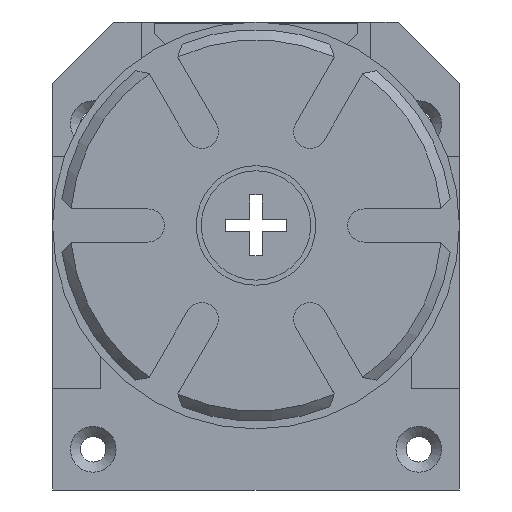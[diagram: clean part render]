
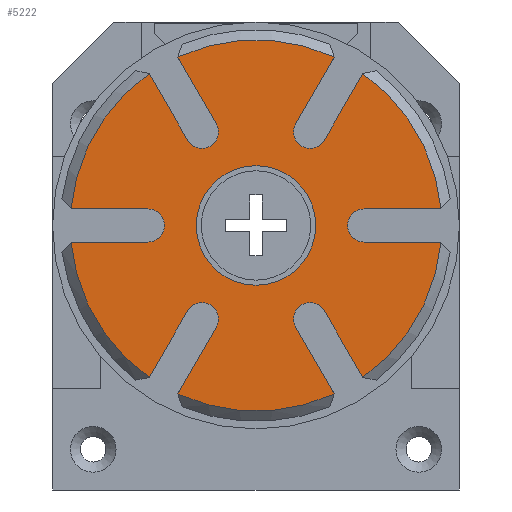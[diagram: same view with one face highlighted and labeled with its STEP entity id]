
A CAD part, front view. The second image highlights one B-rep face of the part: STEP entity #5222.
In plain terms, the highlighted planar face has unit normal (0, -1, 0).
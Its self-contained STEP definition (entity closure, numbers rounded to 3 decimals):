
#110=FACE_BOUND('',#857,.T.);
#241=PLANE('',#5783);
#562=FACE_OUTER_BOUND('',#856,.T.);
#856=EDGE_LOOP('',(#4565,#4566,#4567,#4568,#4569,#4570,#4571,#4572,#4573,
#4574,#4575,#4576,#4577,#4578,#4579,#4580,#4581,#4582,#4583,#4584,#4585,
#4586,#4587,#4588));
#857=EDGE_LOOP('',(#4589,#4590));
#1264=LINE('',#8594,#1788);
#1269=LINE('',#8606,#1793);
#1272=LINE('',#8612,#1796);
#1273=LINE('',#8615,#1797);
#1276=LINE('',#8624,#1800);
#1281=LINE('',#8636,#1805);
#1284=LINE('',#8642,#1808);
#1286=LINE('',#8650,#1810);
#1288=LINE('',#8654,#1812);
#1293=LINE('',#8666,#1817);
#1296=LINE('',#8672,#1820);
#1297=LINE('',#8675,#1821);
#1788=VECTOR('',#6907,10.);
#1793=VECTOR('',#6920,10.);
#1796=VECTOR('',#6925,10.);
#1797=VECTOR('',#6928,10.);
#1800=VECTOR('',#6939,10.);
#1805=VECTOR('',#6952,10.);
#1808=VECTOR('',#6957,10.);
#1810=VECTOR('',#6967,10.);
#1812=VECTOR('',#6971,10.);
#1817=VECTOR('',#6984,10.);
#1820=VECTOR('',#6989,10.);
#1821=VECTOR('',#6992,10.);
#2119=CIRCLE('',#5679,11.75);
#2120=CIRCLE('',#5680,11.75);
#2136=CIRCLE('',#5710,36.5);
#2139=CIRCLE('',#5717,36.5);
#2142=CIRCLE('',#5725,36.5);
#2145=CIRCLE('',#5731,36.5);
#2148=CIRCLE('',#5739,36.5);
#2151=CIRCLE('',#5746,36.5);
#2154=CIRCLE('',#5753,3.25);
#2156=CIRCLE('',#5759,3.25);
#2158=CIRCLE('',#5763,3.25);
#2160=CIRCLE('',#5768,3.25);
#2162=CIRCLE('',#5773,3.25);
#2164=CIRCLE('',#5779,3.25);
#2467=VERTEX_POINT('',#8299);
#2468=VERTEX_POINT('',#8300);
#2494=VERTEX_POINT('',#8379);
#2495=VERTEX_POINT('',#8383);
#2504=VERTEX_POINT('',#8416);
#2505=VERTEX_POINT('',#8420);
#2516=VERTEX_POINT('',#8459);
#2517=VERTEX_POINT('',#8463);
#2524=VERTEX_POINT('',#8490);
#2525=VERTEX_POINT('',#8494);
#2536=VERTEX_POINT('',#8533);
#2537=VERTEX_POINT('',#8537);
#2546=VERTEX_POINT('',#8570);
#2547=VERTEX_POINT('',#8574);
#2551=VERTEX_POINT('',#8593);
#2554=VERTEX_POINT('',#8601);
#2556=VERTEX_POINT('',#8610);
#2557=VERTEX_POINT('',#8614);
#2559=VERTEX_POINT('',#8623);
#2562=VERTEX_POINT('',#8631);
#2564=VERTEX_POINT('',#8640);
#2566=VERTEX_POINT('',#8646);
#2567=VERTEX_POINT('',#8653);
#2570=VERTEX_POINT('',#8661);
#2572=VERTEX_POINT('',#8670);
#2573=VERTEX_POINT('',#8674);
#3108=EDGE_CURVE('',#2467,#2468,#2119,.T.);
#3109=EDGE_CURVE('',#2468,#2467,#2120,.T.);
#3145=EDGE_CURVE('',#2494,#2495,#2136,.T.);
#3158=EDGE_CURVE('',#2504,#2505,#2139,.T.);
#3174=EDGE_CURVE('',#2516,#2517,#2142,.T.);
#3184=EDGE_CURVE('',#2524,#2525,#2145,.T.);
#3200=EDGE_CURVE('',#2536,#2537,#2148,.T.);
#3213=EDGE_CURVE('',#2546,#2547,#2151,.T.);
#3220=EDGE_CURVE('',#2551,#2547,#1264,.T.);
#3224=EDGE_CURVE('',#2554,#2551,#2154,.T.);
#3227=EDGE_CURVE('',#2536,#2554,#1269,.T.);
#3230=EDGE_CURVE('',#2494,#2556,#1272,.T.);
#3231=EDGE_CURVE('',#2557,#2505,#1273,.T.);
#3235=EDGE_CURVE('',#2556,#2557,#2156,.T.);
#3236=EDGE_CURVE('',#2559,#2525,#1276,.T.);
#3240=EDGE_CURVE('',#2562,#2559,#2158,.T.);
#3243=EDGE_CURVE('',#2516,#2562,#1281,.T.);
#3246=EDGE_CURVE('',#2524,#2564,#1284,.T.);
#3249=EDGE_CURVE('',#2564,#2566,#2160,.T.);
#3250=EDGE_CURVE('',#2566,#2537,#1286,.T.);
#3252=EDGE_CURVE('',#2567,#2495,#1288,.T.);
#3256=EDGE_CURVE('',#2570,#2567,#2162,.T.);
#3259=EDGE_CURVE('',#2546,#2570,#1293,.T.);
#3262=EDGE_CURVE('',#2504,#2572,#1296,.T.);
#3263=EDGE_CURVE('',#2573,#2517,#1297,.T.);
#3267=EDGE_CURVE('',#2572,#2573,#2164,.T.);
#4565=ORIENTED_EDGE('',*,*,#3145,.F.);
#4566=ORIENTED_EDGE('',*,*,#3230,.T.);
#4567=ORIENTED_EDGE('',*,*,#3235,.T.);
#4568=ORIENTED_EDGE('',*,*,#3231,.T.);
#4569=ORIENTED_EDGE('',*,*,#3158,.F.);
#4570=ORIENTED_EDGE('',*,*,#3262,.T.);
#4571=ORIENTED_EDGE('',*,*,#3267,.T.);
#4572=ORIENTED_EDGE('',*,*,#3263,.T.);
#4573=ORIENTED_EDGE('',*,*,#3174,.F.);
#4574=ORIENTED_EDGE('',*,*,#3243,.T.);
#4575=ORIENTED_EDGE('',*,*,#3240,.T.);
#4576=ORIENTED_EDGE('',*,*,#3236,.T.);
#4577=ORIENTED_EDGE('',*,*,#3184,.F.);
#4578=ORIENTED_EDGE('',*,*,#3246,.T.);
#4579=ORIENTED_EDGE('',*,*,#3249,.T.);
#4580=ORIENTED_EDGE('',*,*,#3250,.T.);
#4581=ORIENTED_EDGE('',*,*,#3200,.F.);
#4582=ORIENTED_EDGE('',*,*,#3227,.T.);
#4583=ORIENTED_EDGE('',*,*,#3224,.T.);
#4584=ORIENTED_EDGE('',*,*,#3220,.T.);
#4585=ORIENTED_EDGE('',*,*,#3213,.F.);
#4586=ORIENTED_EDGE('',*,*,#3259,.T.);
#4587=ORIENTED_EDGE('',*,*,#3256,.T.);
#4588=ORIENTED_EDGE('',*,*,#3252,.T.);
#4589=ORIENTED_EDGE('',*,*,#3108,.T.);
#4590=ORIENTED_EDGE('',*,*,#3109,.T.);
#5222=ADVANCED_FACE('',(#562,#110),#241,.T.);
#5679=AXIS2_PLACEMENT_3D('',#8301,#6709,#6710);
#5680=AXIS2_PLACEMENT_3D('',#8302,#6711,#6712);
#5710=AXIS2_PLACEMENT_3D('',#8384,#6789,#6790);
#5717=AXIS2_PLACEMENT_3D('',#8421,#6809,#6810);
#5725=AXIS2_PLACEMENT_3D('',#8464,#6834,#6835);
#5731=AXIS2_PLACEMENT_3D('',#8495,#6849,#6850);
#5739=AXIS2_PLACEMENT_3D('',#8538,#6874,#6875);
#5746=AXIS2_PLACEMENT_3D('',#8575,#6894,#6895);
#5753=AXIS2_PLACEMENT_3D('',#8602,#6914,#6915);
#5759=AXIS2_PLACEMENT_3D('',#8621,#6935,#6936);
#5763=AXIS2_PLACEMENT_3D('',#8632,#6946,#6947);
#5768=AXIS2_PLACEMENT_3D('',#8648,#6963,#6964);
#5773=AXIS2_PLACEMENT_3D('',#8662,#6978,#6979);
#5779=AXIS2_PLACEMENT_3D('',#8681,#6999,#7000);
#5783=AXIS2_PLACEMENT_3D('',#8687,#7007,#7008);
#6709=DIRECTION('center_axis',(0.,1.,0.));
#6710=DIRECTION('ref_axis',(1.,0.,0.));
#6711=DIRECTION('center_axis',(0.,1.,0.));
#6712=DIRECTION('ref_axis',(1.,0.,0.));
#6789=DIRECTION('center_axis',(0.,1.,0.));
#6790=DIRECTION('ref_axis',(-1.,0.,0.));
#6809=DIRECTION('center_axis',(0.,1.,0.));
#6810=DIRECTION('ref_axis',(-1.,0.,0.));
#6834=DIRECTION('center_axis',(0.,1.,0.));
#6835=DIRECTION('ref_axis',(1.,0.,0.));
#6849=DIRECTION('center_axis',(0.,1.,0.));
#6850=DIRECTION('ref_axis',(1.,0.,0.));
#6874=DIRECTION('center_axis',(0.,1.,0.));
#6875=DIRECTION('ref_axis',(1.,0.,0.));
#6894=DIRECTION('center_axis',(0.,1.,0.));
#6895=DIRECTION('ref_axis',(1.,0.,0.));
#6907=DIRECTION('',(0.5,0.,0.866));
#6914=DIRECTION('center_axis',(0.,1.,0.));
#6915=DIRECTION('ref_axis',(-0.866,0.,0.5));
#6920=DIRECTION('',(-0.5,0.,-0.866));
#6925=DIRECTION('',(1.,0.,0.));
#6928=DIRECTION('',(-1.,0.,0.));
#6935=DIRECTION('center_axis',(0.,1.,0.));
#6936=DIRECTION('ref_axis',(0.,0.,-1.));
#6939=DIRECTION('',(0.5,0.,-0.866));
#6946=DIRECTION('center_axis',(0.,1.,0.));
#6947=DIRECTION('ref_axis',(0.866,0.,0.5));
#6952=DIRECTION('',(-0.5,0.,0.866));
#6957=DIRECTION('',(-1.,0.,0.));
#6963=DIRECTION('center_axis',(0.,1.,0.));
#6964=DIRECTION('ref_axis',(0.,0.,1.));
#6967=DIRECTION('',(1.,0.,0.));
#6971=DIRECTION('',(-0.5,0.,0.866));
#6978=DIRECTION('center_axis',(0.,1.,0.));
#6979=DIRECTION('ref_axis',(-0.866,0.,-0.5));
#6984=DIRECTION('',(0.5,0.,-0.866));
#6989=DIRECTION('',(0.5,0.,0.866));
#6992=DIRECTION('',(-0.5,0.,-0.866));
#6999=DIRECTION('center_axis',(0.,1.,0.));
#7000=DIRECTION('ref_axis',(0.866,0.,-0.5));
#7007=DIRECTION('center_axis',(0.,-1.,0.));
#7008=DIRECTION('ref_axis',(0.,0.,-1.));
#8299=CARTESIAN_POINT('',(11.75,-6.5,0.));
#8300=CARTESIAN_POINT('',(-11.75,-6.5,0.));
#8301=CARTESIAN_POINT('Origin',(0.,-6.5,0.));
#8302=CARTESIAN_POINT('Origin',(0.,-6.5,0.));
#8379=CARTESIAN_POINT('',(-36.355,-6.5,3.25));
#8383=CARTESIAN_POINT('',(-20.992,-6.5,29.859));
#8384=CARTESIAN_POINT('Origin',(0.,-6.5,0.));
#8416=CARTESIAN_POINT('',(-20.992,-6.5,-29.859));
#8420=CARTESIAN_POINT('',(-36.355,-6.5,-3.25));
#8421=CARTESIAN_POINT('Origin',(0.,-6.5,0.));
#8459=CARTESIAN_POINT('',(15.363,-6.5,-33.109));
#8463=CARTESIAN_POINT('',(-15.363,-6.5,-33.109));
#8464=CARTESIAN_POINT('Origin',(0.,-6.5,0.));
#8490=CARTESIAN_POINT('',(36.355,-6.5,-3.25));
#8494=CARTESIAN_POINT('',(20.992,-6.5,-29.859));
#8495=CARTESIAN_POINT('Origin',(0.,-6.5,0.));
#8533=CARTESIAN_POINT('',(20.992,-6.5,29.859));
#8537=CARTESIAN_POINT('',(36.355,-6.5,3.25));
#8538=CARTESIAN_POINT('Origin',(0.,-6.5,0.));
#8570=CARTESIAN_POINT('',(-15.363,-6.5,33.109));
#8574=CARTESIAN_POINT('',(15.363,-6.5,33.109));
#8575=CARTESIAN_POINT('Origin',(0.,-6.5,0.));
#8593=CARTESIAN_POINT('',(7.81,-6.5,20.028));
#8594=CARTESIAN_POINT('',(2.498,-6.5,10.827));
#8601=CARTESIAN_POINT('',(13.44,-6.5,16.778));
#8602=CARTESIAN_POINT('Origin',(10.625,-6.5,18.403));
#8606=CARTESIAN_POINT('',(18.127,-6.5,24.897));
#8610=CARTESIAN_POINT('',(-21.25,-6.5,3.25));
#8612=CARTESIAN_POINT('',(-30.625,-6.5,3.25));
#8614=CARTESIAN_POINT('',(-21.25,-6.5,-3.25));
#8615=CARTESIAN_POINT('',(-10.625,-6.5,-3.25));
#8621=CARTESIAN_POINT('Origin',(-21.25,-6.5,0.));
#8623=CARTESIAN_POINT('',(13.44,-6.5,-16.778));
#8624=CARTESIAN_POINT('',(8.127,-6.5,-7.577));
#8631=CARTESIAN_POINT('',(7.81,-6.5,-20.028));
#8632=CARTESIAN_POINT('Origin',(10.625,-6.5,-18.403));
#8636=CARTESIAN_POINT('',(12.498,-6.5,-28.147));
#8640=CARTESIAN_POINT('',(21.25,-6.5,-3.25));
#8642=CARTESIAN_POINT('',(30.625,-6.5,-3.25));
#8646=CARTESIAN_POINT('',(21.25,-6.5,3.25));
#8648=CARTESIAN_POINT('Origin',(21.25,-6.5,0.));
#8650=CARTESIAN_POINT('',(10.625,-6.5,3.25));
#8653=CARTESIAN_POINT('',(-13.44,-6.5,16.778));
#8654=CARTESIAN_POINT('',(-8.127,-6.5,7.577));
#8661=CARTESIAN_POINT('',(-7.81,-6.5,20.028));
#8662=CARTESIAN_POINT('Origin',(-10.625,-6.5,18.403));
#8666=CARTESIAN_POINT('',(-12.498,-6.5,28.147));
#8670=CARTESIAN_POINT('',(-13.44,-6.5,-16.778));
#8672=CARTESIAN_POINT('',(-18.127,-6.5,-24.897));
#8674=CARTESIAN_POINT('',(-7.81,-6.5,-20.028));
#8675=CARTESIAN_POINT('',(-2.498,-6.5,-10.827));
#8681=CARTESIAN_POINT('Origin',(-10.625,-6.5,-18.403));
#8687=CARTESIAN_POINT('Origin',(0.,-6.5,0.));
